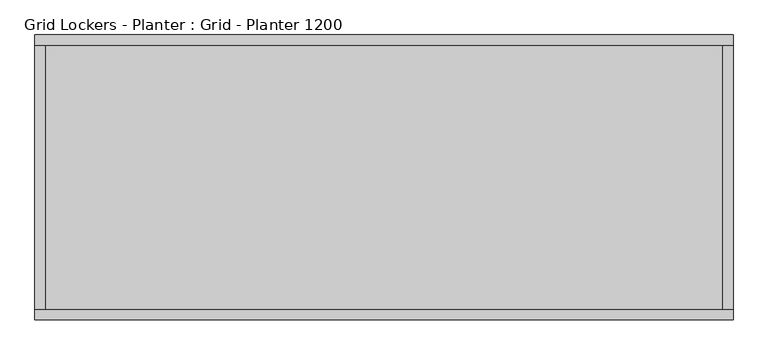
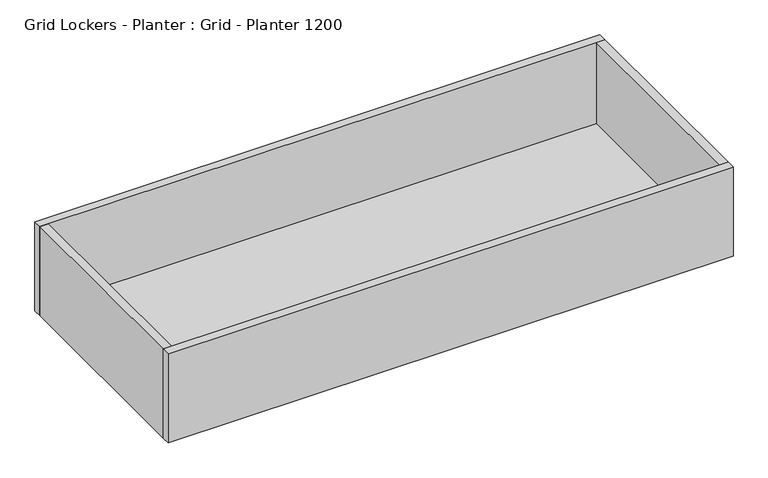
"""IFC4 building model written with IfcOpenShell, lengths in millimetres: furniture geometry, Grid Lockers - Planter : Grid - Planter 1200."""

from ifc_helpers import new_model, si_unit, origin, origin_with_axes, place, context, project, spatial, polyline, outline, extrude, source, transform, mapped, element, save


def grid_lockers_planter_grid_planter_1200_5579d0e7(model_context):
    return source(origin(), model_context, "Body", "SweptSolid", [
        extrude(outline(polyline([(0.0, -18.0), (0.0, 0.0), (1200.0, 0.0), (1200.0, -18.0), (0.0, -18.0)])), origin_with_axes(), (0.0, 0.0, 1.0), 200.0),
        extrude(outline(polyline([(0.0, -490.0), (0.0, -472.0), (1200.0, -472.0), (1200.0, -490.0), (0.0, -490.0)])), origin_with_axes(), (0.0, 0.0, 1.0), 200.0),
        extrude(outline(polyline([(1182.0, -18.0), (1200.0, -18.0), (1200.0, -472.0), (1182.0, -472.0), (1182.0, -18.0)])), origin_with_axes(), (0.0, 0.0, 1.0), 200.0),
        extrude(outline(polyline([(0.0, -18.0), (18.0, -18.0), (18.0, -472.0), (0.0, -472.0), (0.0, -18.0)])), origin_with_axes(), (0.0, 0.0, 1.0), 200.0),
        extrude(outline(polyline([(1182.0, -472.0), (18.0, -472.0), (18.0, -18.0), (1182.0, -18.0), (1182.0, -472.0)])), origin_with_axes(), (0.0, 0.0, 1.0), 18.0),
    ])


if __name__ == "__main__":
    model = new_model("IFC4")
    model_context = context("Model", 3, world=origin())
    ifc_project = project(units=[si_unit("LENGTHUNIT", "METRE", prefix="MILLI")], contexts=[model_context])
    site = spatial("IfcSite", under=ifc_project)
    building = spatial("IfcBuilding", under=site)
    placement = place(None, origin())
    grid_lockers_planter_grid_planter_1200_shape = grid_lockers_planter_grid_planter_1200_5579d0e7(model_context)
    element("IfcFurniture", 1, ObjectType="Grid Lockers - Planter : Grid - Planter 1200", at=placement, inside=building, context=model_context, shape_type="MappedRepresentation", body=[
        mapped(grid_lockers_planter_grid_planter_1200_shape, transform((0.0, 0.0, 0.0), x_axis=(1.0, 0.0, 0.0), y_axis=(0.0, 1.0, 0.0), z_axis=(0.0, 0.0, 1.0))),
    ])
    save(model, "model.ifc")
